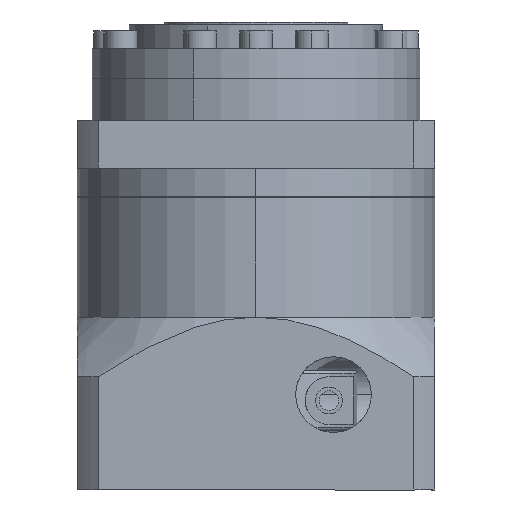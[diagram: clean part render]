
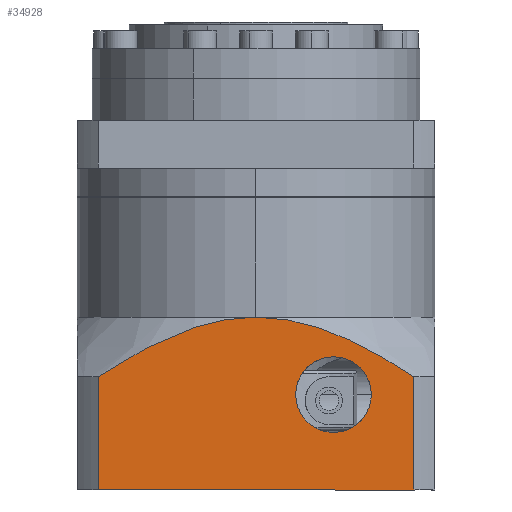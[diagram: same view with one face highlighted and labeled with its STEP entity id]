
A CAD part, left-side view. The second image highlights one B-rep face of the part: STEP entity #34928.
In plain terms, the highlighted planar face has unit normal (-1, 0, 0).
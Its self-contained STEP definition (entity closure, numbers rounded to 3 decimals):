
#1411 = CARTESIAN_POINT ( 'NONE',  ( -30., 26.458, -35. ) ) ;
#1419 = CARTESIAN_POINT ( 'NONE',  ( -30., 18.245, -30.1 ) ) ;
#1420 = CARTESIAN_POINT ( 'NONE',  ( -30., 19.306, -30.665 ) ) ;
#1421 = CARTESIAN_POINT ( 'NONE',  ( -30., 22.444, -32.426 ) ) ;
#1422 = CARTESIAN_POINT ( 'NONE',  ( -30., 24.471, -33.686 ) ) ;
#1423 = CARTESIAN_POINT ( 'NONE',  ( -30., 26.458, -35. ) ) ;
#1427 = B_SPLINE_CURVE_WITH_KNOTS ( 'NONE', 3,
 ( #1423, #1422, #1421, #1420, #1419, #1474, #1473, #1472, #1471, #1470, #1469, #1468, #1467, #1466, #1465, #1464 ),
 .UNSPECIFIED., .F., .F.,
 ( 4, 2, 2, 2, 2, 2, 2, 4 ),
 ( 0.034, 0.041, 0.045, 0.048, 0.056, 0.057, 0.059, 0.063 ),
 .UNSPECIFIED. ) ;
#1464 = CARTESIAN_POINT ( 'NONE',  ( -30., 0., -25. ) ) ;
#1465 = CARTESIAN_POINT ( 'NONE',  ( -30., 1.191, -25. ) ) ;
#1466 = CARTESIAN_POINT ( 'NONE',  ( -30., 2.382, -25.071 ) ) ;
#1467 = CARTESIAN_POINT ( 'NONE',  ( -30., 4.165, -25.282 ) ) ;
#1468 = CARTESIAN_POINT ( 'NONE',  ( -30., 4.759, -25.37 ) ) ;
#1469 = CARTESIAN_POINT ( 'NONE',  ( -30., 5.947, -25.578 ) ) ;
#1470 = CARTESIAN_POINT ( 'NONE',  ( -30., 6.54, -25.699 ) ) ;
#1471 = CARTESIAN_POINT ( 'NONE',  ( -30., 9.469, -26.376 ) ) ;
#1472 = CARTESIAN_POINT ( 'NONE',  ( -30., 11.724, -27.148 ) ) ;
#1473 = CARTESIAN_POINT ( 'NONE',  ( -30., 15.018, -28.534 ) ) ;
#1474 = CARTESIAN_POINT ( 'NONE',  ( -30., 16.102, -29.035 ) ) ;
#1631 = CARTESIAN_POINT ( 'NONE',  ( -30., 26.458, -54. ) ) ;
#1654 = LINE ( 'NONE', #1714, #1713 ) ;
#1712 = DIRECTION ( 'NONE',  ( 0., 0., 1. ) ) ;
#1713 = VECTOR ( 'NONE', #1712, 1000. ) ;
#1714 = CARTESIAN_POINT ( 'NONE',  ( -30., 26.458, -5. ) ) ;
#1957 = FACE_BOUND ( 'NONE', #34560, .T. ) ;
#1961 = AXIS2_PLACEMENT_3D ( 'NONE', #2015, #2014, #2013 ) ;
#1966 = PLANE ( 'NONE',  #2012 ) ;
#1993 = DIRECTION ( 'NONE',  ( 0., 0., 1. ) ) ;
#1994 = DIRECTION ( 'NONE',  ( 1., 0., 0. ) ) ;
#1995 = CARTESIAN_POINT ( 'NONE',  ( -30., -30., -54. ) ) ;
#2010 = FACE_OUTER_BOUND ( 'NONE', #34677, .T. ) ;
#2012 = AXIS2_PLACEMENT_3D ( 'NONE', #1995, #1994, #1993 ) ;
#2013 = DIRECTION ( 'NONE',  ( 0., 0., -1. ) ) ;
#2014 = DIRECTION ( 'NONE',  ( -1., 0., 0. ) ) ;
#2015 = CARTESIAN_POINT ( 'NONE',  ( -30., -13., -38. ) ) ;
#2016 = CIRCLE ( 'NONE', #1961, 6.35 ) ;
#2201 = DIRECTION ( 'NONE',  ( 0., 1., 0. ) ) ;
#2202 = VECTOR ( 'NONE', #2201, 1000. ) ;
#2203 = CARTESIAN_POINT ( 'NONE',  ( -30., -30., -54. ) ) ;
#2204 = LINE ( 'NONE', #2203, #2202 ) ;
#2216 = DIRECTION ( 'NONE',  ( 0., 0., -1. ) ) ;
#2217 = VECTOR ( 'NONE', #2216, 1000. ) ;
#2218 = CARTESIAN_POINT ( 'NONE',  ( -30., -26.458, -5. ) ) ;
#2219 = LINE ( 'NONE', #2218, #2217 ) ;
#2242 = CARTESIAN_POINT ( 'NONE',  ( -30., -26.458, -35. ) ) ;
#2349 = B_SPLINE_CURVE_WITH_KNOTS ( 'NONE', 3,
 ( #2395, #2394, #2393, #2392, #2391, #2390, #2389, #2388, #2387, #2386, #2385, #2384, #2383, #2382, #2381, #2380 ),
 .UNSPECIFIED., .F., .F.,
 ( 4, 2, 2, 2, 2, 2, 2, 4 ),
 ( 0.063, 0.066, 0.068, 0.07, 0.077, 0.081, 0.084, 0.091 ),
 .UNSPECIFIED. ) ;
#2370 = CARTESIAN_POINT ( 'NONE',  ( -30., -26.458, -54. ) ) ;
#2380 = CARTESIAN_POINT ( 'NONE',  ( -30., -26.458, -35. ) ) ;
#2381 = CARTESIAN_POINT ( 'NONE',  ( -30., -24.476, -33.69 ) ) ;
#2382 = CARTESIAN_POINT ( 'NONE',  ( -30., -22.455, -32.433 ) ) ;
#2383 = CARTESIAN_POINT ( 'NONE',  ( -30., -19.328, -30.677 ) ) ;
#2384 = CARTESIAN_POINT ( 'NONE',  ( -30., -18.267, -30.111 ) ) ;
#2385 = CARTESIAN_POINT ( 'NONE',  ( -30., -16.115, -29.042 ) ) ;
#2386 = CARTESIAN_POINT ( 'NONE',  ( -30., -15.028, -28.539 ) ) ;
#2387 = CARTESIAN_POINT ( 'NONE',  ( -30., -11.727, -27.149 ) ) ;
#2388 = CARTESIAN_POINT ( 'NONE',  ( -30., -9.472, -26.378 ) ) ;
#2389 = CARTESIAN_POINT ( 'NONE',  ( -30., -6.553, -25.702 ) ) ;
#2390 = CARTESIAN_POINT ( 'NONE',  ( -30., -5.964, -25.581 ) ) ;
#2391 = CARTESIAN_POINT ( 'NONE',  ( -30., -4.776, -25.372 ) ) ;
#2392 = CARTESIAN_POINT ( 'NONE',  ( -30., -4.176, -25.283 ) ) ;
#2393 = CARTESIAN_POINT ( 'NONE',  ( -30., -2.385, -25.071 ) ) ;
#2394 = CARTESIAN_POINT ( 'NONE',  ( -30., -1.192, -25. ) ) ;
#2395 = CARTESIAN_POINT ( 'NONE',  ( -30., 0., -25. ) ) ;
#31980 = VERTEX_POINT ( 'NONE', #47237 ) ;
#33321 = EDGE_CURVE ( 'NONE', #33420, #33354, #49748, .T. ) ;
#33354 = VERTEX_POINT ( 'NONE', #49812 ) ;
#33420 = VERTEX_POINT ( 'NONE', #49917 ) ;
#34560 = EDGE_LOOP ( 'NONE', ( #34805, #34930 ) ) ;
#34668 = VERTEX_POINT ( 'NONE', #1411 ) ;
#34675 = EDGE_CURVE ( 'NONE', #34668, #31980, #1427, .T. ) ;
#34677 = EDGE_LOOP ( 'NONE', ( #34881, #34926, #35043, #35152, #35076 ) ) ;
#34783 = EDGE_CURVE ( 'NONE', #34785, #34668, #1654, .T. ) ;
#34785 = VERTEX_POINT ( 'NONE', #1631 ) ;
#34805 = ORIENTED_EDGE ( 'NONE', *, *, #34916, .F. ) ;
#34881 = ORIENTED_EDGE ( 'NONE', *, *, #34675, .F. ) ;
#34916 = EDGE_CURVE ( 'NONE', #33354, #33420, #2016, .T. ) ;
#34926 = ORIENTED_EDGE ( 'NONE', *, *, #34783, .F. ) ;
#34928 = ADVANCED_FACE ( 'NONE', ( #1957, #2010 ), #1966, .F. ) ;
#34930 = ORIENTED_EDGE ( 'NONE', *, *, #33321, .F. ) ;
#35041 = EDGE_CURVE ( 'NONE', #35146, #34785, #2204, .T. ) ;
#35043 = ORIENTED_EDGE ( 'NONE', *, *, #35041, .F. ) ;
#35072 = EDGE_CURVE ( 'NONE', #35115, #35146, #2219, .T. ) ;
#35076 = ORIENTED_EDGE ( 'NONE', *, *, #35153, .F. ) ;
#35115 = VERTEX_POINT ( 'NONE', #2242 ) ;
#35146 = VERTEX_POINT ( 'NONE', #2370 ) ;
#35152 = ORIENTED_EDGE ( 'NONE', *, *, #35072, .F. ) ;
#35153 = EDGE_CURVE ( 'NONE', #31980, #35115, #2349, .T. ) ;
#47237 = CARTESIAN_POINT ( 'NONE',  ( -30., 0., -25. ) ) ;
#49744 = DIRECTION ( 'NONE',  ( 0., 0., -1. ) ) ;
#49745 = DIRECTION ( 'NONE',  ( -1., 0., 0. ) ) ;
#49746 = CARTESIAN_POINT ( 'NONE',  ( -30., -13., -38. ) ) ;
#49747 = AXIS2_PLACEMENT_3D ( 'NONE', #49746, #49745, #49744 ) ;
#49748 = CIRCLE ( 'NONE', #49747, 6.35 ) ;
#49812 = CARTESIAN_POINT ( 'NONE',  ( -30., -13., -44.35 ) ) ;
#49917 = CARTESIAN_POINT ( 'NONE',  ( -30., -13., -31.65 ) ) ;
